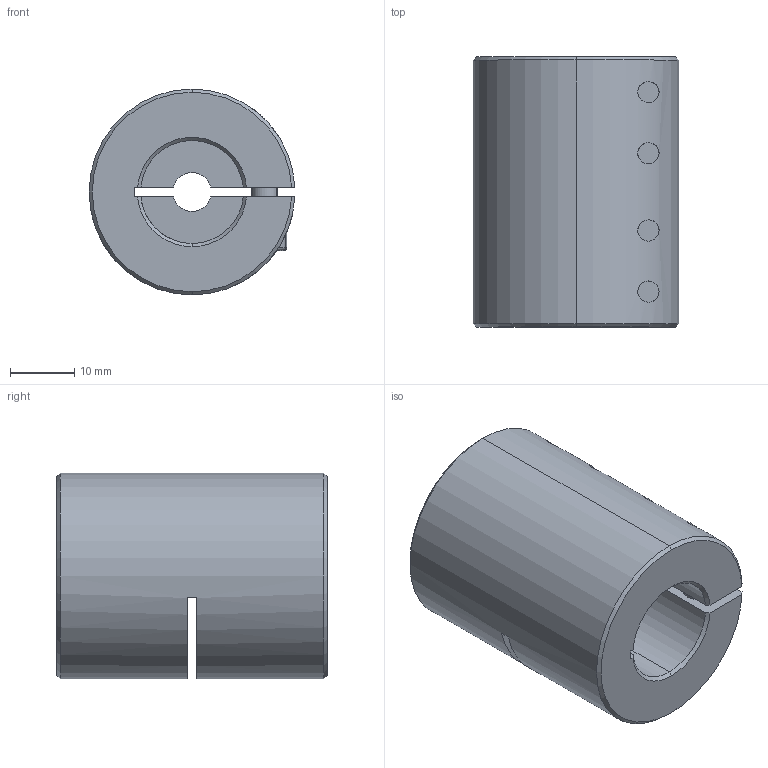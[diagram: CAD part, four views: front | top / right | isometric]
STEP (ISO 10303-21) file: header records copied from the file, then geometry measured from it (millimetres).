
FILE_DESCRIPTION (( 'STEP AP203' ), '1' );
FILE_NAME ('LL-B-D32L42-6-16.STEP', '2021-11-05T07:35:45', ( '' ), ( '' ), 'SwSTEP 2.0', 'SolidWorks 2018', '' );
FILE_SCHEMA (( 'CONFIG_CONTROL_DESIGN' ));
Length unit declared in the file: millimetre
Products named in the file (1): LL-B-D32L42-6-16
Bounding box: 31.98 x 42 x 32 mm (x, y, z)
Volume: 26463.1 mm3; surface area: 10338 mm2
Topology: 1 solids, 1 shells, 192 faces, 489 edges, 307 vertices
Faces by surface type: plane 88, cylinder 76, cone 20, torus 8
Entity records: 6343 total; most frequent: CARTESIAN_POINT 1553, DIRECTION 1032, ORIENTED_EDGE 962, EDGE_CURVE 481, AXIS2_PLACEMENT_3D 402, VERTEX_POINT 307, VECTOR 228, LINE 228
